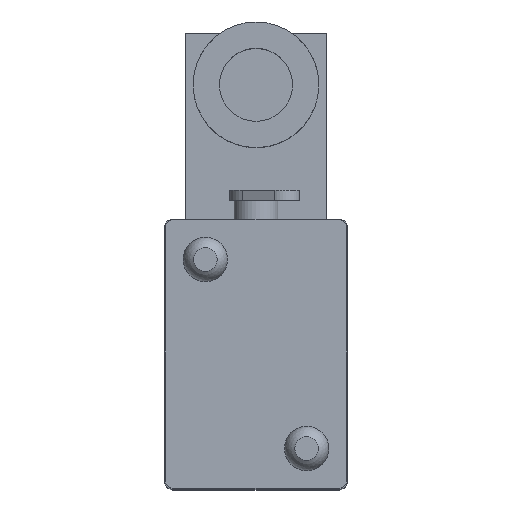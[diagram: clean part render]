
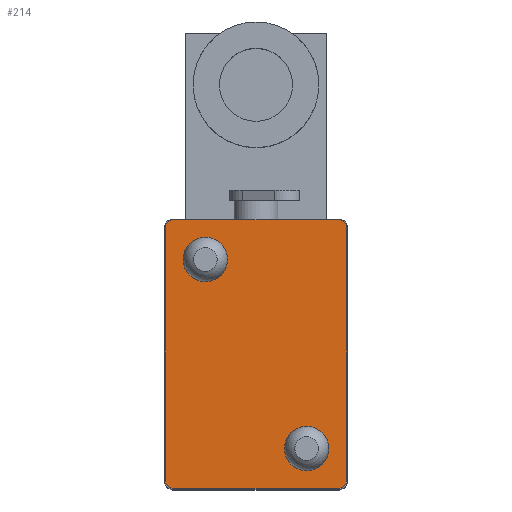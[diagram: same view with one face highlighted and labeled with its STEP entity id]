
A CAD part, top view. The second image highlights one B-rep face of the part: STEP entity #214.
In plain terms, the highlighted planar face has unit normal (0, 0, 1).
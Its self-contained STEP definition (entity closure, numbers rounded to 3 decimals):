
#214 = ADVANCED_FACE( '', ( #506, #507, #508 ), #509, .T. );
#506 = FACE_BOUND( '', #879, .T. );
#507 = FACE_BOUND( '', #880, .T. );
#508 = FACE_OUTER_BOUND( '', #881, .T. );
#509 = PLANE( '', #882 );
#879 = EDGE_LOOP( '', ( #1431 ) );
#880 = EDGE_LOOP( '', ( #1432 ) );
#881 = EDGE_LOOP( '', ( #1433, #1434, #1435, #1436, #1437, #1438, #1439, #1440 ) );
#882 = AXIS2_PLACEMENT_3D( '', #1441, #1442, #1443 );
#1431 = ORIENTED_EDGE( '', *, *, #2111, .T. );
#1432 = ORIENTED_EDGE( '', *, *, #1975, .T. );
#1433 = ORIENTED_EDGE( '', *, *, #2112, .T. );
#1434 = ORIENTED_EDGE( '', *, *, #2113, .T. );
#1435 = ORIENTED_EDGE( '', *, *, #2114, .T. );
#1436 = ORIENTED_EDGE( '', *, *, #1953, .T. );
#1437 = ORIENTED_EDGE( '', *, *, #2089, .T. );
#1438 = ORIENTED_EDGE( '', *, *, #1990, .T. );
#1439 = ORIENTED_EDGE( '', *, *, #2115, .T. );
#1440 = ORIENTED_EDGE( '', *, *, #1942, .T. );
#1441 = CARTESIAN_POINT( '', ( -12.2, 18.7, 11.6 ) );
#1442 = DIRECTION( '', ( 0., 0., 1. ) );
#1443 = DIRECTION( '', ( 1., 0., 0. ) );
#1942 = EDGE_CURVE( '', #2267, #2265, #2268, .T. );
#1953 = EDGE_CURVE( '', #2286, #2284, #2287, .T. );
#1975 = EDGE_CURVE( '', #2322, #2322, #2323, .T. );
#1990 = EDGE_CURVE( '', #2347, #2345, #2348, .T. );
#2089 = EDGE_CURVE( '', #2284, #2347, #2513, .T. );
#2111 = EDGE_CURVE( '', #2545, #2545, #2546, .T. );
#2112 = EDGE_CURVE( '', #2265, #2547, #2548, .T. );
#2113 = EDGE_CURVE( '', #2547, #2549, #2550, .T. );
#2114 = EDGE_CURVE( '', #2549, #2286, #2551, .T. );
#2115 = EDGE_CURVE( '', #2345, #2267, #2552, .T. );
#2265 = VERTEX_POINT( '', #2743 );
#2267 = VERTEX_POINT( '', #2746 );
#2268 = LINE( '', #2747, #2748 );
#2284 = VERTEX_POINT( '', #2766 );
#2286 = VERTEX_POINT( '', #2769 );
#2287 = LINE( '', #2770, #2771 );
#2322 = VERTEX_POINT( '', #2812 );
#2323 = CIRCLE( '', #2813, 3.3 );
#2345 = VERTEX_POINT( '', #2861 );
#2347 = VERTEX_POINT( '', #2864 );
#2348 = LINE( '', #2865, #2866 );
#2513 = CIRCLE( '', #3074, 1.2 );
#2545 = VERTEX_POINT( '', #3114 );
#2546 = CIRCLE( '', #3115, 3.3 );
#2547 = VERTEX_POINT( '', #3116 );
#2548 = CIRCLE( '', #3117, 1.2 );
#2549 = VERTEX_POINT( '', #3118 );
#2550 = LINE( '', #3119, #3120 );
#2551 = CIRCLE( '', #3121, 1.2 );
#2552 = CIRCLE( '', #3122, 1.2 );
#2743 = CARTESIAN_POINT( '', ( -12.2, 19.9, 11.6 ) );
#2746 = CARTESIAN_POINT( '', ( 12.2, 19.9, 11.6 ) );
#2747 = CARTESIAN_POINT( '', ( 12.2, 19.9, 11.6 ) );
#2748 = VECTOR( '', #3344, 1000. );
#2766 = CARTESIAN_POINT( '', ( 12.2, -19.9, 11.6 ) );
#2769 = CARTESIAN_POINT( '', ( -12.2, -19.9, 11.6 ) );
#2770 = CARTESIAN_POINT( '', ( -12.2, -19.9, 11.6 ) );
#2771 = VECTOR( '', #3360, 1000. );
#2812 = CARTESIAN_POINT( '', ( 4.2, -14., 11.6 ) );
#2813 = AXIS2_PLACEMENT_3D( '', #3394, #3395, #3396 );
#2861 = CARTESIAN_POINT( '', ( 13.4, 18.7, 11.6 ) );
#2864 = CARTESIAN_POINT( '', ( 13.4, -18.7, 11.6 ) );
#2865 = CARTESIAN_POINT( '', ( 13.4, -18.7, 11.6 ) );
#2866 = VECTOR( '', #3412, 1000. );
#3074 = AXIS2_PLACEMENT_3D( '', #3555, #3556, #3557 );
#3114 = CARTESIAN_POINT( '', ( -10.8, 14., 11.6 ) );
#3115 = AXIS2_PLACEMENT_3D( '', #3584, #3585, #3586 );
#3116 = CARTESIAN_POINT( '', ( -13.4, 18.7, 11.6 ) );
#3117 = AXIS2_PLACEMENT_3D( '', #3587, #3588, #3589 );
#3118 = CARTESIAN_POINT( '', ( -13.4, -18.7, 11.6 ) );
#3119 = CARTESIAN_POINT( '', ( -13.4, 18.7, 11.6 ) );
#3120 = VECTOR( '', #3590, 1000. );
#3121 = AXIS2_PLACEMENT_3D( '', #3591, #3592, #3593 );
#3122 = AXIS2_PLACEMENT_3D( '', #3594, #3595, #3596 );
#3344 = DIRECTION( '', ( -1., 0., 0. ) );
#3360 = DIRECTION( '', ( 1., 0., 0. ) );
#3394 = CARTESIAN_POINT( '', ( 7.5, -14., 11.6 ) );
#3395 = DIRECTION( '', ( 0., 0., -1. ) );
#3396 = DIRECTION( '', ( -1., 0., 0. ) );
#3412 = DIRECTION( '', ( 0., 1., 0. ) );
#3555 = CARTESIAN_POINT( '', ( 12.2, -18.7, 11.6 ) );
#3556 = DIRECTION( '', ( 0., 0., 1. ) );
#3557 = DIRECTION( '', ( 1., 0., 0. ) );
#3584 = CARTESIAN_POINT( '', ( -7.5, 14., 11.6 ) );
#3585 = DIRECTION( '', ( 0., 0., -1. ) );
#3586 = DIRECTION( '', ( -1., 0., 0. ) );
#3587 = CARTESIAN_POINT( '', ( -12.2, 18.7, 11.6 ) );
#3588 = DIRECTION( '', ( 0., 0., 1. ) );
#3589 = DIRECTION( '', ( 1., 0., 0. ) );
#3590 = DIRECTION( '', ( 0., -1., 0. ) );
#3591 = CARTESIAN_POINT( '', ( -12.2, -18.7, 11.6 ) );
#3592 = DIRECTION( '', ( 0., 0., 1. ) );
#3593 = DIRECTION( '', ( 1., 0., 0. ) );
#3594 = CARTESIAN_POINT( '', ( 12.2, 18.7, 11.6 ) );
#3595 = DIRECTION( '', ( 0., 0., 1. ) );
#3596 = DIRECTION( '', ( 1., 0., 0. ) );
